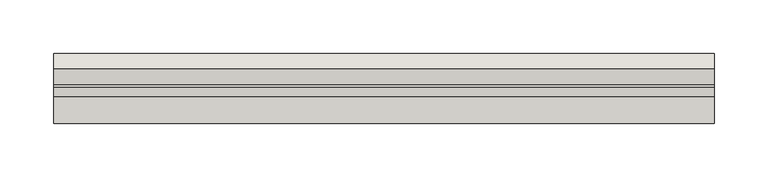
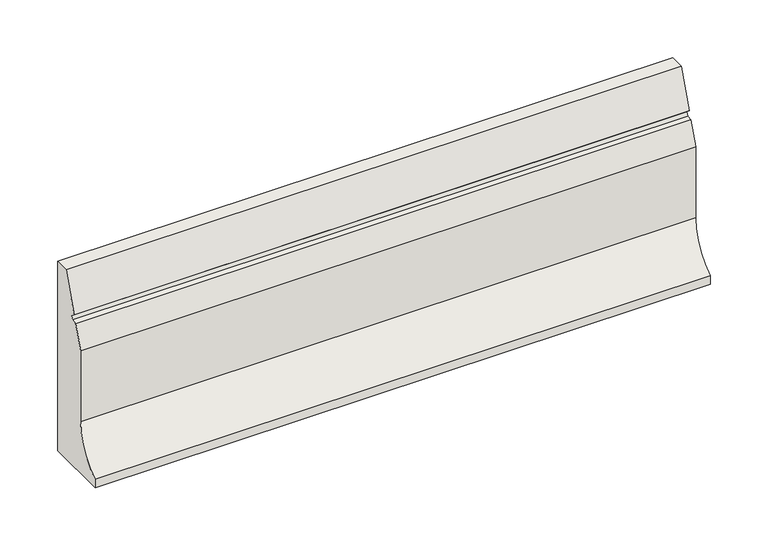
"""IFC4 building model written with IfcOpenShell, lengths in millimetres: wall geometry, GM_PC_WPB_ACO kerb PB straight_ACO : PB H200 standard."""

import ifcopenshell
import ifcopenshell.guid

model = None  # the IFC model being written
_history = None  # IfcOwnerHistory: only IFC2X3 demands one
_inside = {}  # id of a spatial element -> (the spatial element, [elements in it])
_under = {}  # id of a project, library or spatial element -> (it, [spatial elements below it])
_declared = {}  # id of a project -> (the project, [libraries it declares])
_typed = {}  # id of a type object -> (the type object, [elements of that type])
_made_of = {}  # id of a material, layer set ... -> (it, [elements and type objects made of it])


def new_model(schema):
    """Start an empty IFC model of exactly this schema.

    Asked for "IFC4X3", IfcOpenShell would pick the latest addendum, in which some entities
    have other attributes; the version numbers below select the first issue.
    IFC2X3 requires an IfcOwnerHistory on every rooted entity: one is made here for all.
    """
    global model, _history
    if schema == "IFC4X3":
        model = ifcopenshell.file(schema_version=(4, 3, 0, 0))
    else:
        model = ifcopenshell.file(schema=schema)
    _inside.clear()
    _under.clear()
    _declared.clear()
    _typed.clear()
    _made_of.clear()
    _history = None
    if model.schema == "IFC2X3":
        org = make("IfcOrganization", Name="unknown")
        user = make(
            "IfcPersonAndOrganization",
            ThePerson=make("IfcPerson", FamilyName="unknown"),
            TheOrganization=org,
        )
        app = make(
            "IfcApplication",
            ApplicationDeveloper=org,
            Version="unknown",
            ApplicationFullName="unknown",
            ApplicationIdentifier="unknown",
        )
        _history = make(
            "IfcOwnerHistory",
            OwningUser=user,
            OwningApplication=app,
            ChangeAction="ADDED",
            CreationDate=0,
        )
    return model


def make(cls, **values):
    """One entity of the class cls with the attributes given. An attribute that is None is left unset."""
    return model.create_entity(
        cls, **{name: value for name, value in values.items() if value is not None}
    )


def rooted(cls, **values):
    """An entity with a GlobalId (a new one), such as an element, a storey or a relation."""
    return make(cls, GlobalId=ifcopenshell.guid.new(), OwnerHistory=_history, **values)


def si_unit(unit_type, name, prefix=None):
    """IfcSIUnit, for example si_unit("LENGTHUNIT", "METRE", prefix="MILLI")."""
    return make("IfcSIUnit", UnitType=unit_type, Prefix=prefix, Name=name)


def assignment(units):
    """IfcUnitAssignment: the units of a project."""
    return None if units is None else make("IfcUnitAssignment", Units=units)


def point(xyz):
    """IfcCartesianPoint."""
    return None if xyz is None else make("IfcCartesianPoint", Coordinates=xyz)


def direction(xyz):
    """IfcDirection."""
    return None if xyz is None else make("IfcDirection", DirectionRatios=xyz)


def frame(location, z_axis=None, x_axis=None):
    """IfcAxis2Placement3D, a coordinate frame: its origin and axes. An axis left out is left unset."""
    return make(
        "IfcAxis2Placement3D",
        Location=point(location),
        Axis=direction(z_axis),
        RefDirection=direction(x_axis),
    )


def frame_2d(location, x_axis=None):
    """IfcAxis2Placement2D, a coordinate frame in the plane: its origin and x axis."""
    return make(
        "IfcAxis2Placement2D", Location=point(location), RefDirection=direction(x_axis)
    )


def origin():
    """The frame at (0, 0, 0) with its axes left unset."""
    return frame((0.0, 0.0, 0.0))


def place(relative_to, where):
    """IfcLocalPlacement: puts the frame where relative to a parent placement (None: the world)."""
    return make(
        "IfcLocalPlacement", PlacementRelTo=relative_to, RelativePlacement=where
    )


def context(
    kind, dimensions, precision=None, world=None, true_north=None, identifier=None
):
    """IfcGeometricRepresentationContext, for example the 3D "Model" context."""
    return make(
        "IfcGeometricRepresentationContext",
        ContextIdentifier=identifier,
        ContextType=kind,
        CoordinateSpaceDimension=dimensions,
        Precision=precision,
        WorldCoordinateSystem=world,
        TrueNorth=true_north,
    )


def project(units=None, contexts=None):
    """IfcProject with its units and contexts."""
    return rooted(
        "IfcProject",
        Name="project",
        RepresentationContexts=contexts,
        UnitsInContext=assignment(units),
    )


def spatial(cls, under=None, at=None, **own):
    """A site, building, storey or space (cls), placed at a placement, below another one or the project."""
    s = rooted(cls, ObjectPlacement=at, **own)
    if under is not None:
        _under.setdefault(under.id(), (under, []))[1].append(s)
    return s


def polyline(points):
    """IfcPolyline through the points."""
    return make("IfcPolyline", Points=[point(p) for p in points])


def circle_curve(where, radius):
    """IfcCircle in the frame where."""
    return make("IfcCircle", Position=where, Radius=radius)


def trimmed(basis, trim1, trim2, sense, master):
    """IfcTrimmedCurve: the piece of a basis curve between two trims."""
    return make(
        "IfcTrimmedCurve",
        BasisCurve=basis,
        Trim1=trim1,
        Trim2=trim2,
        SenseAgreement=sense,
        MasterRepresentation=master,
    )


def segment(curve, same_sense, transition):
    """IfcCompositeCurveSegment."""
    return make(
        "IfcCompositeCurveSegment",
        Transition=transition,
        SameSense=same_sense,
        ParentCurve=curve,
    )


def composite_curve(segments, self_intersect=None):
    """IfcCompositeCurve: segments joined end to end."""
    return make("IfcCompositeCurve", Segments=segments, SelfIntersect=self_intersect)


def outline(outer, holes=None, kind="AREA"):
    """IfcArbitraryClosedProfileDef: a profile drawn as a closed curve; with holes, ...WithVoids."""
    if holes is None:
        return make("IfcArbitraryClosedProfileDef", ProfileType=kind, OuterCurve=outer)
    return make(
        "IfcArbitraryProfileDefWithVoids",
        ProfileType=kind,
        OuterCurve=outer,
        InnerCurves=holes,
    )


def extrude(swept, where, along, depth):
    """IfcExtrudedAreaSolid: the profile swept, set in the frame where, extruded along a direction by depth."""
    return make(
        "IfcExtrudedAreaSolid",
        SweptArea=swept,
        Position=where,
        ExtrudedDirection=direction(along),
        Depth=depth,
    )


def shape(context_of_items, identifier, shape_type, items):
    """IfcShapeRepresentation: the items that make up one representation, for example the "Body"."""
    return make(
        "IfcShapeRepresentation",
        ContextOfItems=context_of_items,
        RepresentationIdentifier=identifier,
        RepresentationType=shape_type,
        Items=items,
    )


def source(mapping_origin, context_of_items, identifier, shape_type, items):
    """IfcRepresentationMap: a shape defined once, which mapped items show again and again."""
    return make(
        "IfcRepresentationMap",
        MappingOrigin=mapping_origin,
        MappedRepresentation=shape(context_of_items, identifier, shape_type, items),
    )


def transform(
    local_origin,
    x_axis=None,
    y_axis=None,
    z_axis=None,
    scale=None,
    scale2=None,
    scale3=None,
    uniform=True,
):
    """IfcCartesianTransformationOperator3D, or its non-uniform kind. x_axis, y_axis, z_axis: its Axis1, 2, 3."""
    if uniform:
        return make(
            "IfcCartesianTransformationOperator3D",
            Axis1=direction(x_axis),
            Axis2=direction(y_axis),
            LocalOrigin=point(local_origin),
            Scale=scale,
            Axis3=direction(z_axis),
        )
    return make(
        "IfcCartesianTransformationOperator3DnonUniform",
        Axis1=direction(x_axis),
        Axis2=direction(y_axis),
        LocalOrigin=point(local_origin),
        Scale=scale,
        Axis3=direction(z_axis),
        Scale2=scale2,
        Scale3=scale3,
    )


def mapped(mapping_source, mapping_target):
    """IfcMappedItem: shows the shape of a source again, moved by a transform."""
    return make(
        "IfcMappedItem", MappingSource=mapping_source, MappingTarget=mapping_target
    )


def made_of(thing, what):
    """Note that an element or type object is made of a material, layer set ...; save() writes the relation."""
    if what is not None:
        _made_of.setdefault(what.id(), (what, []))[1].append(thing)
    return thing


def element(
    cls,
    number,
    at=None,
    inside=None,
    cuts=None,
    type_object=None,
    material=None,
    context=None,
    identifier="Body",
    shape_type=None,
    held_by="IfcProductDefinitionShape",
    body=None,
    shapes=None,
    **own,
):
    """One element of the class cls, such as IfcWall. Its Tag is "e" and its number.

    at: its placement. inside: the storey or other place that contains it. cuts: it is an
    opening in that element (IfcRelVoidsElement). A single representation is given by context,
    identifier, shape_type and body (its items); several are given by shapes. held_by: the class
    of the entity that holds the representations. save() writes the other relations.
    """
    e = rooted(cls, Tag="e%d" % number, ObjectPlacement=at, **own)
    if body is not None:
        shapes = [shape(context, identifier, shape_type, body)]
    if shapes is not None:
        e.Representation = make(held_by, Representations=shapes)
    if inside is not None:
        _inside.setdefault(inside.id(), (inside, []))[1].append(e)
    if cuts is not None:
        rooted(
            "IfcRelVoidsElement", RelatingBuildingElement=cuts, RelatedOpeningElement=e
        )
    if type_object is not None:
        _typed.setdefault(type_object.id(), (type_object, []))[1].append(e)
    return made_of(e, material)


def aggregate(whole, parts):
    """IfcRelAggregates: a whole, such as a stair, and the parts it consists of."""
    return rooted("IfcRelAggregates", RelatingObject=whole, RelatedObjects=parts)


def save(model, path):
    """Write the relations noted so far, then the file.

    IfcRelAggregates (storeys below a building ...), IfcRelContainedInSpatialStructure (elements
    in a storey), IfcRelDefinesByType, IfcRelAssociatesMaterial and IfcRelDeclares: one each for
    every whole, place, type object, material and project.
    """
    for whole, parts in _under.values():
        aggregate(whole, parts)
    for where, things in _inside.values():
        rooted(
            "IfcRelContainedInSpatialStructure",
            RelatedElements=things,
            RelatingStructure=where,
        )
    for kind, things in _typed.values():
        rooted("IfcRelDefinesByType", RelatedObjects=things, RelatingType=kind)
    for what, things in _made_of.values():
        rooted("IfcRelAssociatesMaterial", RelatedObjects=things, RelatingMaterial=what)
    for by, libraries in _declared.values():
        rooted("IfcRelDeclares", RelatingContext=by, RelatedDefinitions=libraries)
    model.write(path)


def wall_29dfddbd(model_context):
    return source(origin(), model_context, "Body", "SweptSolid", [
        extrude(outline(composite_curve([segment(polyline([(-40.0039527, 130.0277035), (-31.5963262, 153.428955), (-26.03433, 154.0469313), (-24.6373807, 157.7298564), (-28.690316, 161.1592348), (-14.5292951, 200.0197419), (0.0, 200.0197419), (0.0, 0.0), (-65.0223078, 0.0), (-65.0223078, 8.9062534)]), True, "CONTINUOUS"), segment(trimmed(circle_curve(frame_2d((-94.2239515, 54.592465)), 54.2214526), [point((-65.0223078, 8.9062534))], [point((-40.0039527, 54.9895287))], True, "CARTESIAN"), True, "CONTINUOUS"), segment(polyline([(-40.0039527, 54.9895287), (-40.0039527, 130.0277035)]), True, "CONTINUOUS")], self_intersect=False)), frame((0.0, 0.0, 0.0), z_axis=(1.0, 0.0, 0.0), x_axis=(0.0, 1.0, 0.0)), (0.0, 0.0, 1.0), 615.0),
    ])


if __name__ == "__main__":
    model = new_model("IFC4")
    model_context = context("Model", 3, world=origin())
    ifc_project = project(units=[si_unit("LENGTHUNIT", "METRE", prefix="MILLI")], contexts=[model_context])
    site = spatial("IfcSite", under=ifc_project)
    building = spatial("IfcBuilding", under=site)
    placement = place(None, origin())
    wall_shape = wall_29dfddbd(model_context)
    element("IfcWall", 1, ObjectType="GM_PC_WPB_ACO kerb PB straight_ACO : PB H200 standard", at=placement, inside=building, context=model_context, shape_type="MappedRepresentation", body=[
        mapped(wall_shape, transform((0.0, 0.0, 0.0), x_axis=(1.0, 0.0, 0.0), y_axis=(0.0, 1.0, 0.0), z_axis=(0.0, 0.0, 1.0))),
    ])
    save(model, "model.ifc")
